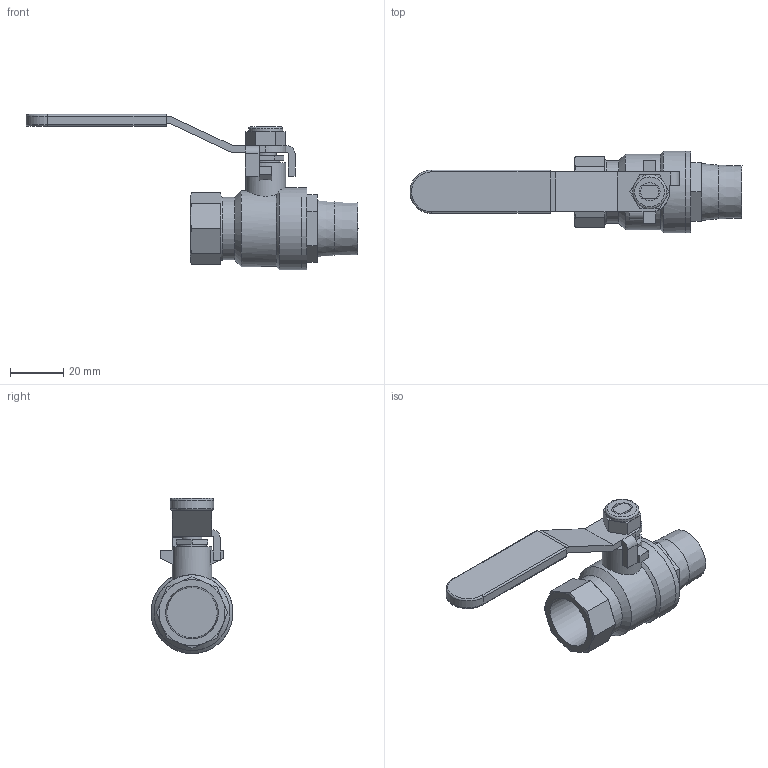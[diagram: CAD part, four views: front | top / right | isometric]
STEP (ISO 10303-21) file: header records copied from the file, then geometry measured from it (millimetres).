
FILE_DESCRIPTION((' '),'2;1');
FILE_NAME('N:\Technical Support\Private\Jomar Valve CAD\Ball Valves\Brass\JF-100GMxF\0.5_JF-100GMxF_100-133GFusionCopy.stp.step','2017-06-01T08:53:42',(' '),(' '),' ','ACIS',' ');
FILE_SCHEMA(('CONFIG_CONTROL_DESIGN'));
Length unit declared in the file: inch
Products named in the file (8): N:\Technical Support\Private\Jomar Valve CAD\Ball Valves\Brass\JF-100GMxF\0.5_JF-100GMxF_100-133GFusionCopy.stp.step; Body1; Body2; Body3; Body4; Body5; Body6; Body7
Assembly tree (7 placements, depth 2):
  N:\Technical Support\Private\Jomar Valve CAD\Ball Valves\Brass\JF-100GMxF\0.5_JF-100GMxF_100-133GFusionCopy.stp.step
    Body1
    Body2
    Body3
    Body4
    Body5
    Body6
    Body7
Bounding box: 124.59 x 30.73 x 58.22 mm (x, y, z)
Volume: 37118.8 mm3; surface area: 17351.6 mm2
Topology: 7 solids, 7 shells, 137 faces, 317 edges, 201 vertices
Faces by surface type: plane 90, cylinder 24, cone 12, bspline 8, torus 3
Full cylindrical faces by diameter (mm): 6.858 x1, 7.874 x1, 8.509 x1, 10.668 x1, 12.751 x1, 14.986 x1, 16.002 x1, 23.495 x1, 28.448 x1, 30.734 x2
Entity records: 4938 total; most frequent: CARTESIAN_POINT 830, DIRECTION 643, ORIENTED_EDGE 584, EDGE_CURVE 292, AXIS2_PLACEMENT_3D 228, VERTEX_POINT 193, VECTOR 187, LINE 187
